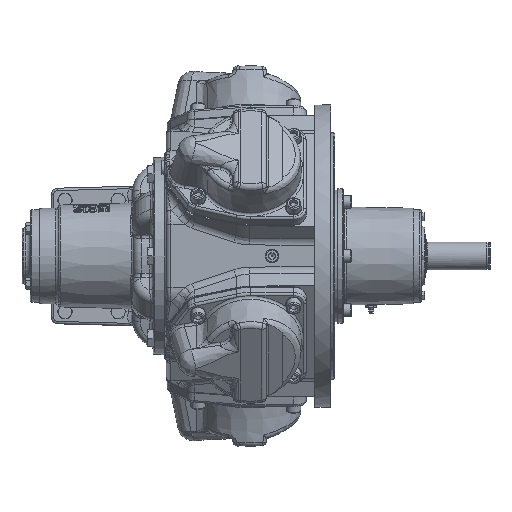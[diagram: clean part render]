
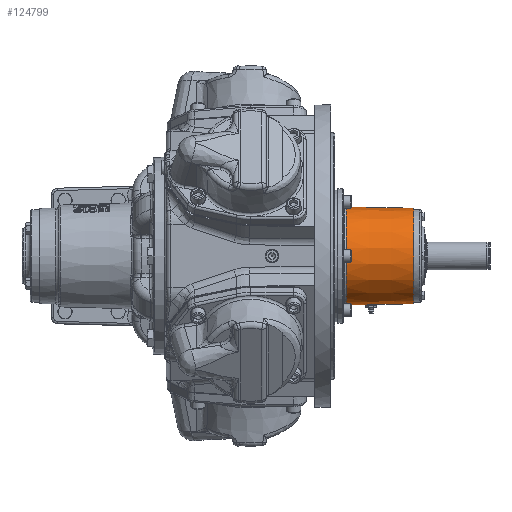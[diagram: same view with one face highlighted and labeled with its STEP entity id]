
A CAD part, front view. The second image highlights one B-rep face of the part: STEP entity #124799.
In plain terms, the highlighted conical face has half-angle 1 degrees and reference radius 60 mm.
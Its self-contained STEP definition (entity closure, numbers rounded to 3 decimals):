
#256 = CONICAL_SURFACE ( 'NONE', #114868, 60., 0.017 ) ;
#1661 = CARTESIAN_POINT ( 'NONE',  ( 150.546, 4.66, -60.825 ) ) ;
#4804 = CARTESIAN_POINT ( 'NONE',  ( 155.29, -2.341, -60.876 ) ) ;
#5419 = CARTESIAN_POINT ( 'NONE',  ( 155.436, -2.067, -60.883 ) ) ;
#5953 = AXIS2_PLACEMENT_3D ( 'NONE', #32467, #33101, #61333 ) ;
#11231 = CARTESIAN_POINT ( 'NONE',  ( 147.622, 3.088, -60.976 ) ) ;
#11351 = CARTESIAN_POINT ( 'NONE',  ( 208., 0., 0. ) ) ;
#11842 = CARTESIAN_POINT ( 'NONE',  ( 146.617, 1.2, -61.06 ) ) ;
#13131 = CARTESIAN_POINT ( 'NONE',  ( 152.684, 4.462, -60.802 ) ) ;
#13820 = CARTESIAN_POINT ( 'NONE',  ( 119.965, 0., 0. ) ) ;
#14386 = CARTESIAN_POINT ( 'NONE',  ( 147.456, -2.886, -60.989 ) ) ;
#15668 = CARTESIAN_POINT ( 'NONE',  ( 154.317, -3.527, -60.835 ) ) ;
#20192 = CARTESIAN_POINT ( 'NONE',  ( 150.858, 4.692, -60.817 ) ) ;
#25228 = CARTESIAN_POINT ( 'NONE',  ( 146.96, -2.102, -61.03 ) ) ;
#25843 = CARTESIAN_POINT ( 'NONE',  ( 148.333, -3.748, -60.927 ) ) ;
#31047 = CARTESIAN_POINT ( 'NONE',  ( 146.706, 1.494, -61.052 ) ) ;
#31657 = CARTESIAN_POINT ( 'NONE',  ( 146.473, -0.33, -61.074 ) ) ;
#32279 = CARTESIAN_POINT ( 'NONE',  ( 147.427, 2.85, -60.991 ) ) ;
#32467 = CARTESIAN_POINT ( 'NONE',  ( 204.6, 0., 0. ) ) ;
#33101 = DIRECTION ( 'NONE',  ( -1., 0., 0. ) ) ;
#33548 = CARTESIAN_POINT ( 'NONE',  ( 153.564, -4.067, -60.815 ) ) ;
#34190 = CARTESIAN_POINT ( 'NONE',  ( 154.752, -3.092, -60.851 ) ) ;
#35459 = CARTESIAN_POINT ( 'NONE',  ( 155.75, 1.239, -60.9 ) ) ;
#35562 = AXIS2_PLACEMENT_3D ( 'NONE', #13820, #63135, #111840 ) ;
#40660 = CARTESIAN_POINT ( 'NONE',  ( 151.472, 4.695, -60.806 ) ) ;
#45069 = CARTESIAN_POINT ( 'NONE',  ( 147.108, -2.375, -61.017 ) ) ;
#45552 = EDGE_LOOP ( 'NONE', ( #80712 ) ) ;
#45698 = CARTESIAN_POINT ( 'NONE',  ( 148.847, -4.086, -60.896 ) ) ;
#47256 = CARTESIAN_POINT ( 'NONE',  ( 119.965, 0., -61.537 ) ) ;
#47442 = B_SPLINE_CURVE_WITH_KNOTS ( 'NONE', 3,
 ( #88777, #61800, #100296, #100931, #107972, #13131, #91305, #81016, #40660, #20192, #1661, #98414, #49638, #99064, #79117, #118227, #79747, #11231, #32279, #109254, #50261, #31047, #11842, #80389, #120133, #31657, #70767, #109872, #54056, #25228, #45069, #14386, #113055, #121428, #25843, #45698, #63713, #82299, #63066, #113685, #82931, #62434, #122046, #53424, #122692, #64333, #33548, #103471, #15668, #34190, #111768, #4804, #5419, #55311, #93201, #72677, #52782, #74586, #54688, #35459, #94462, #93823, #102843, #73961, #102189, #123942 ),
 .UNSPECIFIED., .T., .F.,
 ( 4, 2, 2, 2, 2, 2, 2, 2, 2, 2, 2, 2, 2, 2, 2, 2, 2, 2, 2, 2, 2, 2, 2, 2, 2, 2, 2, 2, 2, 2, 2, 2, 4 ),
 ( 0., 0.001, 0.002, 0.003, 0.004, 0.005, 0.006, 0.006, 0.007, 0.008, 0.009, 0.01, 0.011, 0.012, 0.013, 0.014, 0.015, 0.016, 0.017, 0.018, 0.019, 0.019, 0.02, 0.021, 0.022, 0.023, 0.024, 0.025, 0.026, 0.027, 0.028, 0.029, 0.03 ),
 .UNSPECIFIED. ) ;
#47913 = VERTEX_POINT ( 'NONE', #47256 ) ;
#49483 = VERTEX_POINT ( 'NONE', #58436 ) ;
#49638 = CARTESIAN_POINT ( 'NONE',  ( 149.651, 4.448, -60.856 ) ) ;
#50261 = CARTESIAN_POINT ( 'NONE',  ( 146.94, 2.064, -61.032 ) ) ;
#52782 = CARTESIAN_POINT ( 'NONE',  ( 155.908, -0.289, -60.909 ) ) ;
#53424 = CARTESIAN_POINT ( 'NONE',  ( 152.425, -4.54, -60.801 ) ) ;
#54056 = CARTESIAN_POINT ( 'NONE',  ( 146.721, -1.538, -61.051 ) ) ;
#54688 = CARTESIAN_POINT ( 'NONE',  ( 155.874, 0.637, -60.907 ) ) ;
#55311 = CARTESIAN_POINT ( 'NONE',  ( 155.67, -1.5, -60.896 ) ) ;
#57767 = ORIENTED_EDGE ( 'NONE', *, *, #125754, .T. ) ;
#58436 = CARTESIAN_POINT ( 'NONE',  ( 154.507, 3.337, -60.842 ) ) ;
#61333 = DIRECTION ( 'NONE',  ( 0., 0., -1. ) ) ;
#61800 = CARTESIAN_POINT ( 'NONE',  ( 154.286, 3.555, -60.834 ) ) ;
#61950 = VERTEX_POINT ( 'NONE', #109398 ) ;
#62434 = CARTESIAN_POINT ( 'NONE',  ( 151.517, -4.693, -60.805 ) ) ;
#63066 = CARTESIAN_POINT ( 'NONE',  ( 149.988, -4.549, -60.843 ) ) ;
#63135 = DIRECTION ( 'NONE',  ( -1., 0., 0. ) ) ;
#63713 = CARTESIAN_POINT ( 'NONE',  ( 149.118, -4.228, -60.881 ) ) ;
#64333 = CARTESIAN_POINT ( 'NONE',  ( 153.294, -4.212, -60.809 ) ) ;
#67456 = EDGE_LOOP ( 'NONE', ( #57767 ) ) ;
#70767 = CARTESIAN_POINT ( 'NONE',  ( 146.504, -0.635, -61.071 ) ) ;
#72677 = CARTESIAN_POINT ( 'NONE',  ( 155.879, -0.595, -60.908 ) ) ;
#73961 = CARTESIAN_POINT ( 'NONE',  ( 154.925, 2.882, -60.859 ) ) ;
#74586 = CARTESIAN_POINT ( 'NONE',  ( 155.906, 0.325, -60.909 ) ) ;
#79117 = CARTESIAN_POINT ( 'NONE',  ( 148.807, 4.063, -60.898 ) ) ;
#79238 = FACE_BOUND ( 'NONE', #101329, .T. ) ;
#79747 = CARTESIAN_POINT ( 'NONE',  ( 148.061, 3.527, -60.945 ) ) ;
#80389 = CARTESIAN_POINT ( 'NONE',  ( 146.499, 0.596, -61.071 ) ) ;
#80712 = ORIENTED_EDGE ( 'NONE', *, *, #81177, .F. ) ;
#81016 = CARTESIAN_POINT ( 'NONE',  ( 151.778, 4.667, -60.803 ) ) ;
#81177 = EDGE_CURVE ( 'NONE', #47913, #47913, #107230, .T. ) ;
#82299 = CARTESIAN_POINT ( 'NONE',  ( 149.689, -4.461, -60.855 ) ) ;
#82931 = CARTESIAN_POINT ( 'NONE',  ( 150.896, -4.695, -60.816 ) ) ;
#87694 = CIRCLE ( 'NONE', #5953, 60.059 ) ;
#88777 = CARTESIAN_POINT ( 'NONE',  ( 154.507, 3.337, -60.842 ) ) ;
#91305 = CARTESIAN_POINT ( 'NONE',  ( 152.386, 4.551, -60.801 ) ) ;
#91791 = EDGE_CURVE ( 'NONE', #61950, #61950, #87694, .T. ) ;
#93201 = CARTESIAN_POINT ( 'NONE',  ( 155.76, -1.203, -60.901 ) ) ;
#93823 = CARTESIAN_POINT ( 'NONE',  ( 155.419, 2.101, -60.882 ) ) ;
#94425 = DIRECTION ( 'NONE',  ( -1., 0., 0. ) ) ;
#94462 = CARTESIAN_POINT ( 'NONE',  ( 155.659, 1.532, -60.895 ) ) ;
#96310 = DIRECTION ( 'NONE',  ( 0., 0., -1. ) ) ;
#98414 = CARTESIAN_POINT ( 'NONE',  ( 149.944, 4.538, -60.844 ) ) ;
#98551 = FACE_BOUND ( 'NONE', #67456, .T. ) ;
#99064 = CARTESIAN_POINT ( 'NONE',  ( 149.082, 4.211, -60.883 ) ) ;
#99188 = FACE_OUTER_BOUND ( 'NONE', #45552, .T. ) ;
#100296 = CARTESIAN_POINT ( 'NONE',  ( 154.045, 3.749, -60.827 ) ) ;
#100931 = CARTESIAN_POINT ( 'NONE',  ( 153.526, 4.089, -60.814 ) ) ;
#101329 = EDGE_LOOP ( 'NONE', ( #108019 ) ) ;
#102189 = CARTESIAN_POINT ( 'NONE',  ( 154.729, 3.118, -60.85 ) ) ;
#102843 = CARTESIAN_POINT ( 'NONE',  ( 155.27, 2.375, -60.875 ) ) ;
#103471 = CARTESIAN_POINT ( 'NONE',  ( 154.075, -3.726, -60.828 ) ) ;
#107230 = CIRCLE ( 'NONE', #35562, 61.537 ) ;
#107972 = CARTESIAN_POINT ( 'NONE',  ( 153.252, 4.232, -60.809 ) ) ;
#108019 = ORIENTED_EDGE ( 'NONE', *, *, #91791, .T. ) ;
#109254 = CARTESIAN_POINT ( 'NONE',  ( 147.087, 2.34, -61.019 ) ) ;
#109398 = CARTESIAN_POINT ( 'NONE',  ( 204.6, 0., -60.059 ) ) ;
#109872 = CARTESIAN_POINT ( 'NONE',  ( 146.629, -1.242, -61.059 ) ) ;
#111768 = CARTESIAN_POINT ( 'NONE',  ( 154.946, -2.855, -60.86 ) ) ;
#111840 = DIRECTION ( 'NONE',  ( 0., 0., -1. ) ) ;
#113055 = CARTESIAN_POINT ( 'NONE',  ( 147.652, -3.121, -60.974 ) ) ;
#113685 = CARTESIAN_POINT ( 'NONE',  ( 150.59, -4.666, -60.823 ) ) ;
#114868 = AXIS2_PLACEMENT_3D ( 'NONE', #11351, #94425, #96310 ) ;
#118227 = CARTESIAN_POINT ( 'NONE',  ( 148.298, 3.722, -60.929 ) ) ;
#120133 = CARTESIAN_POINT ( 'NONE',  ( 146.47, 0.284, -61.074 ) ) ;
#121428 = CARTESIAN_POINT ( 'NONE',  ( 148.089, -3.552, -60.943 ) ) ;
#122046 = CARTESIAN_POINT ( 'NONE',  ( 151.824, -4.661, -60.802 ) ) ;
#122692 = CARTESIAN_POINT ( 'NONE',  ( 152.723, -4.449, -60.802 ) ) ;
#123942 = CARTESIAN_POINT ( 'NONE',  ( 154.507, 3.337, -60.842 ) ) ;
#124799 = ADVANCED_FACE ( 'NONE', ( #98551, #79238, #99188 ), #256, .T. ) ;
#125754 = EDGE_CURVE ( 'NONE', #49483, #49483, #47442, .T. ) ;
